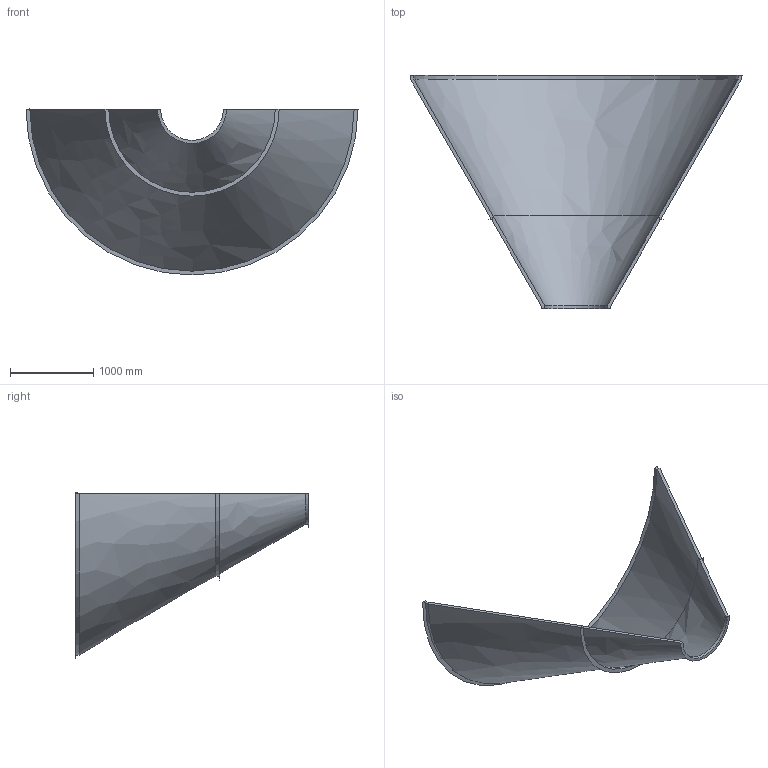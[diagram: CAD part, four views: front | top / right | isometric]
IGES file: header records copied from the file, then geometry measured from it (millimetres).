
Global section: file name: Filename.iges; native system: Open CASCADE 7.2; preprocessor: Open CASCADE IGES processor 7.2; date: 20181010.212427; units: millimetre
Bounding box: 4000 x 2814.5 x 2000 mm (x, y, z)
Surface area: 12753801.6 mm2 (no closed solid volume)
Topology: 0 solids, 0 shells, 12 faces, 60 edges, 60 vertices
Faces by surface type: plane 7, revolution 5
